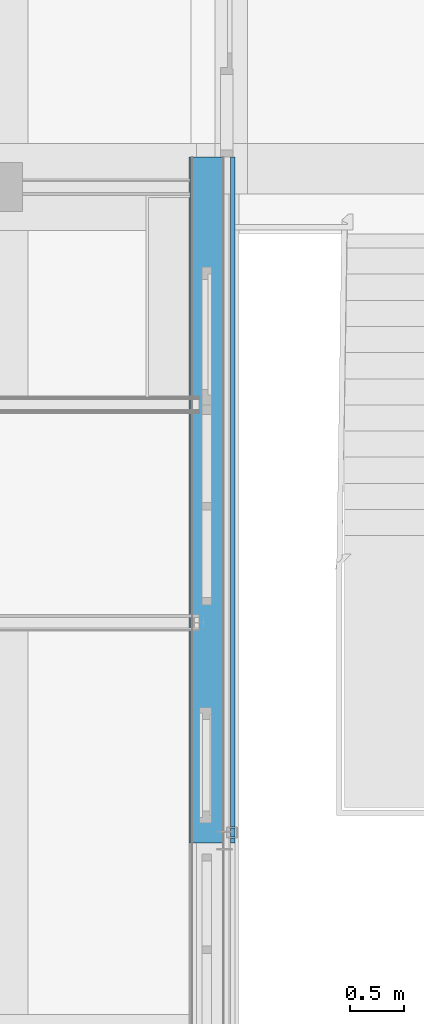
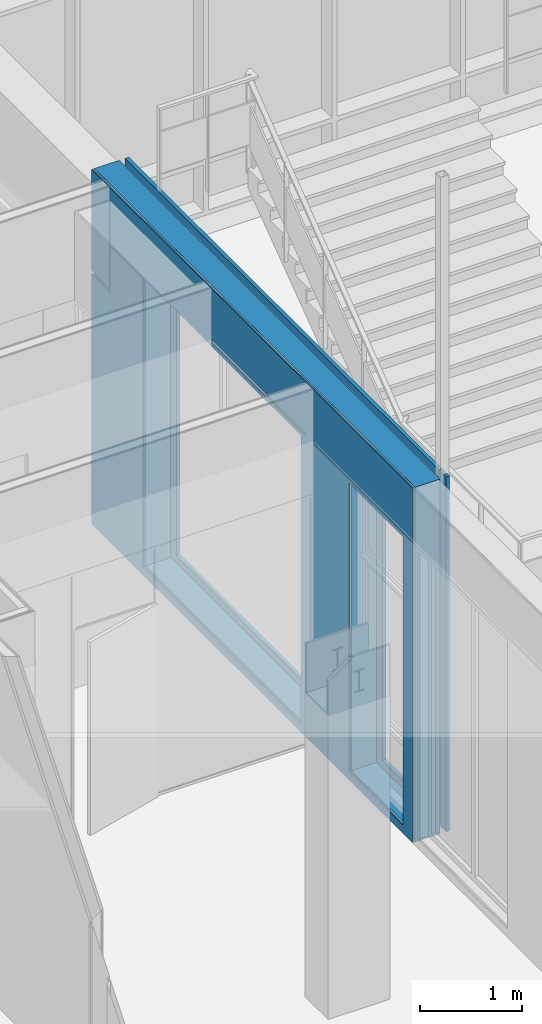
# One storey, part 73 of 94: 3 building element parts, 3 openings, 1 element without a shape of its own.
"""IFC2X3 building model written with IfcOpenShell, lengths in millimetres."""

from ifc_helpers import new_model, entity, si_unit, converted_unit, derived_unit, money_unit, direction, frame, origin_with_axes, place, context, subcontext, project, spatial, faceted_brep, material, type_object, element, aggregate, save


model = new_model("IFC2X3")

# Units and contexts
model_context = context("Model", 3, precision=0.01, world=origin_with_axes(), true_north=direction((0.0, 1.0)))
body_context = subcontext(model_context, "Body", "Model", "MODEL_VIEW")
ifc_project = project(units=[si_unit("LENGTHUNIT", "METRE", prefix="MILLI"), si_unit("AREAUNIT", "SQUARE_METRE"), si_unit("VOLUMEUNIT", "CUBIC_METRE"), converted_unit("PLANEANGLEUNIT", "DEGREE", entity("IfcPlaneAngleMeasure", 0.0174532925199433), si_unit("PLANEANGLEUNIT", "RADIAN"), dimensions=[0, 0, 0, 0, 0, 0, 0]), money_unit("EUR"), converted_unit("TIMEUNIT", "Year", entity("IfcTimeMeasure", 31557600.0), si_unit("TIMEUNIT", "SECOND"), dimensions=[0, 0, 1, 0, 0, 0, 0]), si_unit("MASSUNIT", "GRAM", prefix="KILO"), si_unit("THERMODYNAMICTEMPERATUREUNIT", "DEGREE_CELSIUS"), si_unit("LUMINOUSINTENSITYUNIT", "LUMEN"), si_unit("ENERGYUNIT", "JOULE", prefix="MEGA"), derived_unit("THERMALCONDUCTANCEUNIT", [(si_unit("POWERUNIT", "WATT"), 1), (si_unit("LENGTHUNIT", "METRE"), -1), (si_unit("THERMODYNAMICTEMPERATUREUNIT", "KELVIN"), -1)]), derived_unit("SPECIFICHEATCAPACITYUNIT", [(si_unit("ENERGYUNIT", "JOULE"), 1), (si_unit("MASSUNIT", "GRAM", prefix="KILO"), -1), (si_unit("THERMODYNAMICTEMPERATUREUNIT", "KELVIN"), -1)]), derived_unit("MASSDENSITYUNIT", [(si_unit("MASSUNIT", "GRAM", prefix="KILO"), 1), (si_unit("VOLUMEUNIT", "CUBIC_METRE"), -1)])], contexts=[model_context])

# Site, building, storey
site_placement = place(None, origin_with_axes())
site = spatial("IfcSite", under=ifc_project, at=site_placement, Name="<site naam>", CompositionType="ELEMENT")
building_placement = place(site_placement, origin_with_axes())
building = spatial("IfcBuilding", under=site, at=building_placement, Name="<Naam gebouw>", CompositionType="ELEMENT")
storey_placement = place(building_placement, frame((0.0, 0.0, 4250.0), z_axis=(0.0, 0.0, 1.0), x_axis=(1.0, 0.0, 0.0)))
storey = spatial("IfcBuildingStorey", under=building, at=storey_placement, Name="01 1e verdieping", CompositionType="ELEMENT", Elevation=4250.0)

# Wall, openings, building element parts
wall_type = type_object("IfcWallType", Name="HSB_285 gevelbeplating 420", PredefinedType="NOTDEFINED")
wall_placement = place(storey_placement, frame((4298.044439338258, 1978.357583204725, 0.0), z_axis=(0.0, 0.0, 1.0), x_axis=(0.0, 1.0, 0.0)))
wall = element("IfcWall", 1, at=wall_placement, inside=storey, type_object=wall_type, Name="21_Binnenwand_HSB_285")
opening_1_placement = place(wall_placement, frame((713.9261455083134, 0.0, 102.9999634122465), z_axis=(0.0, 0.0, 1.0), x_axis=(1.0, 0.0, 0.0)))
element("IfcOpeningElement", 2, at=opening_1_placement, cuts=wall, Name="21_BU-A-14b_305", context=body_context, shape_type="Brep", body=[
    faceted_brep([(530.241847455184, 213.0000000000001, 0.0), (530.241847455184, 213.0000000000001, 3454.0), (530.241847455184, -1.000000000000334, 3454.0), (530.241847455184, -1.000000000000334, 0.0), (530.241847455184, 420.9999999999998, 0.0), (530.241847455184, 421.0000000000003, 3454.0), (-530.241847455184, 213.0000000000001, 3454.0), (-530.241847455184, -1.000000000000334, 3454.0), (-530.241847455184, -1.000000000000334, 0.0), (-530.241847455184, 213.0000000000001, 0.0), (-530.241847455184, 420.9999999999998, 0.0), (-530.241847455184, 421.0000000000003, 3454.0)], [[[0, 1, 2, 3]], [[1, 0, 4, 5]], [[1, 6, 7, 2]], [[7, 8, 3, 2]], [[9, 0, 3, 8]], [[0, 9, 10, 4]], [[5, 4, 10, 11]], [[6, 1, 5, 11]], [[6, 9, 8, 7]], [[9, 6, 11, 10]]]),
])
opening_2_placement = place(wall_placement, frame((4655.223789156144, 0.0, 102.9999634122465), z_axis=(0.0, 0.0, 1.0), x_axis=(1.0, 0.0, 0.0)))
element("IfcOpeningElement", 3, at=opening_2_placement, cuts=wall, Name="21_BU-A-15b_305", context=body_context, shape_type="Brep", body=[
    faceted_brep([(633.4999291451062, 213.0000000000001, 0.0), (633.4999291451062, 213.0000000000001, 3454.0), (633.4999291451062, -1.000000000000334, 3454.0), (633.4999291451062, -1.000000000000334, 0.0), (633.4999291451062, 420.9999999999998, 0.0), (633.4999291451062, 420.9999999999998, 3454.0), (-633.4999291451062, 213.0000000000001, 3454.0), (-633.4999291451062, -1.000000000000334, 3454.0), (-633.4999291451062, -1.000000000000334, 0.0), (-633.4999291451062, 213.0000000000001, 0.0), (-633.4999291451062, 420.9999999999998, 0.0), (-633.4999291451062, 420.9999999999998, 3454.0)], [[[0, 1, 2, 3]], [[1, 0, 4, 5]], [[1, 6, 7, 2]], [[7, 8, 3, 2]], [[9, 0, 3, 8]], [[0, 9, 10, 4]], [[5, 4, 10, 11]], [[6, 1, 5, 11]], [[6, 9, 8, 7]], [[9, 6, 11, 10]]]),
])
opening_3_placement = place(wall_placement, frame((3103.623794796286, 0.0, 102.9999634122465), z_axis=(0.0, 0.0, 1.0), x_axis=(1.0, 0.0, 0.0)))
element("IfcOpeningElement", 4, at=opening_3_placement, cuts=wall, Name="21_BU-A-15a_305", context=body_context, shape_type="Brep", body=[
    faceted_brep([(918.5000652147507, 213.0000000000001, 0.0), (918.5000652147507, 213.0000000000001, 3454.0), (918.5000652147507, -1.000000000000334, 3454.0), (918.5000652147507, -1.000000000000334, 0.0), (918.5000652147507, 420.9999999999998, 0.0), (918.5000652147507, 420.9999999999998, 3454.0), (-918.5000652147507, 213.0000000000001, 3454.0), (-918.5000652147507, -1.000000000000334, 3454.0), (-918.5000652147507, -1.000000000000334, 0.0), (-918.5000652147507, 213.0000000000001, 0.0), (-918.5000652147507, 420.9999999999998, 0.0), (-918.5000652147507, 420.9999999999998, 3454.0)], [[[0, 1, 2, 3]], [[1, 0, 4, 5]], [[1, 6, 7, 2]], [[7, 8, 3, 2]], [[9, 0, 3, 8]], [[0, 9, 10, 4]], [[5, 4, 10, 11]], [[6, 1, 5, 11]], [[6, 9, 8, 7]], [[9, 6, 11, 10]]]),
])
ifc_material_1 = material(Name="gipsplaat")
building_element_part_1_placement = place(wall_placement, origin_with_axes())
building_element_part_1 = element("IfcBuildingElementPart", 5, at=building_element_part_1_placement, material=ifc_material_1, Name="gipsplaat", context=body_context, shape_type="Brep", body=[
    faceted_brep([(5926.639104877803, 413.9999834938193, 3556.999963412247), (4096.642416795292, 413.9999834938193, 3556.999963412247), (4096.642416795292, 413.9999834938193, 4099.999999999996), (5946.642416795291, 413.9999943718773, 4099.999999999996), (5946.642416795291, 413.9999943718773, 3040.0), (5946.642416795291, 413.9999943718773, 3000.0), (5926.639104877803, 413.9999943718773, 3000.0), (5926.639104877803, 420.0000000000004, 3556.999963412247), (4096.642416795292, 420.0000000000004, 3556.999963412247), (4096.642416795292, 420.0000000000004, 4099.999999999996), (5946.642416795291, 420.0000000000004, 4099.999999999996), (5946.642416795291, 420.0000000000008, 3040.0), (5946.642416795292, 407.4999999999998, 3040.0), (5946.642416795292, 407.4999999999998, 3000.0), (5926.639104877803, 420.0000000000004, 3000.0), (6296.805043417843, 407.5000000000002, 3000.0), (6296.805043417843, 420.0000000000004, 3000.0), (6296.805043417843, 419.9999999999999, 3.000000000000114), (4096.642347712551, 419.9999999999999, 3.000000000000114), (4096.642347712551, 419.999999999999, 0.0), (3946.642385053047, 419.999999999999, 0.0), (3946.642385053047, 420.0000000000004, 3.000000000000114), (0.0, 419.9999999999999, 3.000000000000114), (0.0, 420.0000000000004, 3600.0), (1946.642422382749, 420.0000000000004, 3600.0), (1946.642422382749, 420.0000000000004, 3640.0), (0.0, 420.0000000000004, 3640.0), (0.0, 420.0000000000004, 4250.0), (6296.805043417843, 420.0000000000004, 4250.0), (6296.805043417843, 420.0000000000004, 3040.0), (2096.642457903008, 420.0000000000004, 3600.0), (3946.642367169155, 420.0000000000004, 3600.0), (3946.642367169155, 420.0000000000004, 3640.0), (2096.642457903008, 420.0000000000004, 3640.0), (6296.805043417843, 407.5000000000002, 3040.0), (6296.805043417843, 407.5000000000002, 4250.0), (0.0, 407.5000000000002, 4250.0), (0.0, 407.4999999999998, 3.000000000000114), (3946.642385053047, 407.4999999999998, 3.000000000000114), (3946.642385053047, 407.4999999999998, 0.0), (4096.642347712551, 407.4999999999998, 0.0), (4096.642347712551, 407.4999999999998, 3.000000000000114), (6296.805043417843, 407.4999999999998, 3.000000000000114), (2096.642457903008, 407.4999999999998, 3600.0), (2096.642457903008, 407.5000000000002, 3640.0), (3946.642367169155, 407.4999999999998, 3640.0), (3946.642367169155, 407.5000000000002, 3600.0), (0.0, 414.0000118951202, 3640.0), (0.0, 414.0000118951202, 3600.0), (1946.642422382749, 414.0000118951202, 3600.0), (1946.642422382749, 414.0000118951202, 3640.0)], [[[0, 1, 2, 3, 4, 5, 6]], [[0, 7, 8, 1]], [[8, 9, 2, 1]], [[3, 2, 9, 10]], [[11, 4, 3, 10]], [[5, 4, 12, 13]], [[14, 6, 5, 13, 15, 16]], [[7, 0, 6, 14]], [[8, 7, 14, 16, 17, 18, 19, 20, 21, 22, 23, 24, 25, 26, 27, 28, 29, 11, 10, 9], [30, 31, 32, 33]], [[4, 11, 29, 34, 12]], [[13, 12, 34, 35, 36, 37, 38, 39, 40, 41, 42, 15], [43, 44, 45, 46]], [[16, 15, 42, 17]], [[17, 42, 41, 18]], [[41, 40, 19, 18]], [[39, 20, 19, 40]], [[39, 38, 21, 20]], [[38, 37, 22, 21]], [[22, 37, 36, 27, 26, 47, 48, 23]], [[23, 48, 49, 24]], [[25, 24, 49, 50]], [[47, 26, 25, 50]], [[36, 35, 28, 27]], [[34, 29, 28, 35]], [[43, 46, 31, 30]], [[46, 45, 32, 31]], [[45, 44, 33, 32]], [[44, 43, 30, 33]], [[48, 47, 50, 49]]]),
])
ifc_material_2 = material(Name="isolatie_houtvezel")
building_element_part_2_placement = place(wall_placement, origin_with_axes())
building_element_part_2 = element("IfcBuildingElementPart", 6, at=building_element_part_2_placement, material=ifc_material_2, Name="isolatie_houtvezel", context=body_context, shape_type="Brep", body=[
    faceted_brep([(1971.64241665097, 290.5444418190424, 0.0), (1971.64241670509, 282.5444393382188, 0.0), (2071.64241688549, 282.5444393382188, 0.0), (2071.642416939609, 290.5444418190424, 0.0), (2024.142416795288, 290.5444418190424, 0.0), (2024.142416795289, 327.9999864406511, 0.0), (3946.642385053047, 327.9999864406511, 0.0), (3946.642385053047, 391.9999999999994, 0.0), (4096.642347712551, 391.9999999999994, 0.0), (4096.642347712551, 107.0000000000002, 0.0), (0.0, 107.0000000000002, 0.0), (0.0, 327.9999864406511, 0.0), (2019.142416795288, 327.9999864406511, 0.0), (2019.142416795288, 290.5444418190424, 0.0), (1971.64241665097, 290.5444418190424, 3789.999753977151), (1971.64241670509, 282.5444393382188, 3789.999753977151), (2071.64241688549, 282.5444393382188, 3789.999753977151), (2071.642416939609, 290.5444418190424, 3789.999753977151), (2024.142416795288, 290.5444418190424, 3789.999753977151), (2024.142416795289, 370.5444377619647, 3789.999753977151), (2024.142416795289, 370.5444377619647, 3.000000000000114), (2024.142417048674, 327.9999864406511, 3.000000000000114), (3946.642385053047, 327.9999864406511, 3.000000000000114), (3946.642385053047, 392.0000000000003, 3.000000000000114), (0.0, 391.9999999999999, 3.000000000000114), (0.0, 392.0000000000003, 4250.0), (6296.805043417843, 392.0000000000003, 4250.0), (6296.805043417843, 391.9999999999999, 3.000000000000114), (4096.642347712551, 392.0000000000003, 3.000000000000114), (4096.642347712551, 107.0000000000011, 3.000000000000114), (6296.805043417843, 107.0000000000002, 3.000000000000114), (6296.805043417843, 107.0000000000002, 4250.0), (0.0, 107.0000000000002, 4250.0), (0.0, 327.9999864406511, 3.000000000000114), (2019.142416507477, 327.9999864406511, 3.000000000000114), (2019.142416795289, 370.5444377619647, 3.000000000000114), (2019.142416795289, 370.5444377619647, 3789.999753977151), (2019.142416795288, 290.5444418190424, 3789.999753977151), (2071.64241688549, 378.5444402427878, 3789.999753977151), (2071.642416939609, 370.5444377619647, 3789.999753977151), (1971.64241665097, 370.5444377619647, 3789.999753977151), (1971.64241670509, 378.5444402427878, 3789.999753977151), (2071.642416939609, 370.5444377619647, 3.000000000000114), (2071.64241688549, 378.5444402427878, 3.000000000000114), (1971.64241670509, 378.5444402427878, 3.000000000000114), (1971.64241665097, 370.5444377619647, 3.000000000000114)], [[[0, 1, 2, 3, 4, 5, 6, 7, 8, 9, 10, 11, 12, 13]], [[1, 0, 14, 15]], [[2, 1, 15, 16]], [[3, 2, 16, 17]], [[4, 3, 17, 18]], [[5, 4, 18, 19, 20, 21]], [[5, 21, 22, 6]], [[23, 7, 6, 22]], [[7, 23, 24, 25, 26, 27, 28, 8]], [[28, 29, 9, 8]], [[10, 9, 29, 30, 31, 32]], [[24, 33, 11, 10, 32, 25]], [[34, 12, 11, 33]], [[13, 12, 34, 35, 36, 37]], [[0, 13, 37, 14]], [[38, 39, 19, 18, 17, 16, 15, 14, 37, 36, 40, 41]], [[42, 20, 19, 39]], [[35, 34, 33, 24, 23, 22, 21, 20, 42, 43, 44, 45]], [[25, 32, 31, 26]], [[31, 30, 27, 26]], [[28, 27, 30, 29]], [[35, 45, 40, 36]], [[43, 42, 39, 38]], [[45, 44, 41, 40]], [[44, 43, 38, 41]]]),
])
ifc_material_3 = material(Name="metaal - Aluminium gevelplaat")
building_element_part_3_placement = place(wall_placement, origin_with_axes())
building_element_part_3 = element("IfcBuildingElementPart", 7, at=building_element_part_3_placement, material=ifc_material_3, Name="metaal - Aluminium gevelplaat", context=body_context, shape_type="Brep", body=[
    faceted_brep([(45.66544129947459, 0.0, 0.0), (45.66544129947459, 0.0, 4250.0), (0.0, 0.0, 4250.0), (0.0, 0.0, 0.0), (45.66544129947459, 40.00000000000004, 4250.0), (45.66544129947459, 40.00000000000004, 0.0), (0.0, 40.00000000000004, 4250.0), (0.0, 40.00000000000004, 0.0)], [[[0, 1, 2, 3]], [[4, 1, 0, 5]], [[1, 4, 6, 2]], [[2, 6, 7, 3]], [[5, 0, 3, 7]], [[4, 5, 7, 6]]]),
    faceted_brep([(137.665441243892, 0.0, 4250.0), (137.665441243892, 40.00000000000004, 4250.0), (53.66544137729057, 40.00000000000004, 4250.0), (53.66544137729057, 0.0, 4250.0), (137.665441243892, 0.0, 0.0), (137.665441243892, 40.00000000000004, 0.0), (53.66544137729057, 40.00000000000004, 0.0), (53.66544137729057, 0.0, 0.0)], [[[0, 1, 2, 3]], [[1, 0, 4, 5]], [[1, 5, 6, 2]], [[7, 3, 2, 6]], [[4, 0, 3, 7]], [[5, 4, 7, 6]]]),
    faceted_brep([(145.665441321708, 40.00000000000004, 4250.0), (145.665441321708, 0.0, 4250.0), (6296.805043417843, 0.0, 4250.0), (6296.805043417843, 40.00000000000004, 4250.0), (145.665441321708, 0.0, 0.0), (145.665441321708, 40.00000000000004, 0.0), (5593.177306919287, 0.0, 0.0), (5593.177306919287, 0.0, 3.000000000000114), (6296.805043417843, 0.0, 3.000000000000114), (6296.805043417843, 40.00000000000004, 3.000000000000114), (4096.642347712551, 39.99999999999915, 3.000000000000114), (4096.642347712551, 40.00000000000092, 0.0), (4096.642347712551, 28.00017981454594, 0.0), (5593.177306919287, 28.00017981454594, 0.0), (5593.177306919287, 28.00017981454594, 3.000000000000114), (4096.642347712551, 28.00017981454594, 3.000000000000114)], [[[0, 1, 2, 3]], [[4, 1, 0, 5]], [[1, 4, 6, 7, 8, 2]], [[8, 9, 3, 2]], [[5, 0, 3, 9, 10, 11]], [[4, 5, 11, 12, 13, 6]], [[6, 13, 14, 7]], [[7, 14, 15, 10, 9, 8]], [[15, 12, 11, 10]], [[15, 14, 13, 12]]]),
])
aggregate(wall, [building_element_part_1, building_element_part_2, building_element_part_3])

save(model, "model.ifc")
